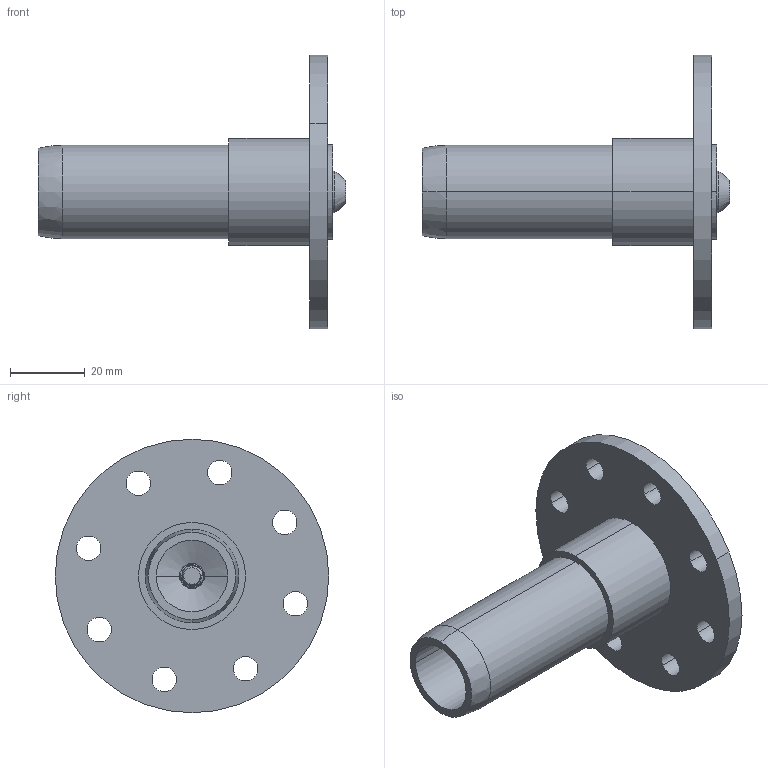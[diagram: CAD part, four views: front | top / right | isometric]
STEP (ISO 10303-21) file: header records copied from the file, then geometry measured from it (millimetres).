
FILE_DESCRIPTION (( 'STEP AP203' ), '1' );
FILE_NAME ('FDPCK-MC1-HEX-END-KIT.step', '2019-09-11T18:41:39', ( 'ydmin' ), ( '' ), 'SwSTEP 2.0', 'SolidWorks 2017', '' );
FILE_SCHEMA (( 'CONFIG_CONTROL_DESIGN' ));
Length unit declared in the file: inch
Products named in the file (1): FDPCK-MC1-HEX-END-KIT
Bounding box: 81.95 x 73.03 x 73.03 mm (x, y, z)
Volume: 42452.1 mm3; surface area: 22893.2 mm2
Topology: 5 solids, 5 shells, 141 faces, 364 edges, 238 vertices
Faces by surface type: cylinder 84, plane 32, bspline 14, cone 11
Entity records: 9173 total; most frequent: CARTESIAN_POINT 5860, ORIENTED_EDGE 728, DIRECTION 624, EDGE_CURVE 364, VERTEX_POINT 238, AXIS2_PLACEMENT_3D 236, EDGE_LOOP 168, VECTOR 152
